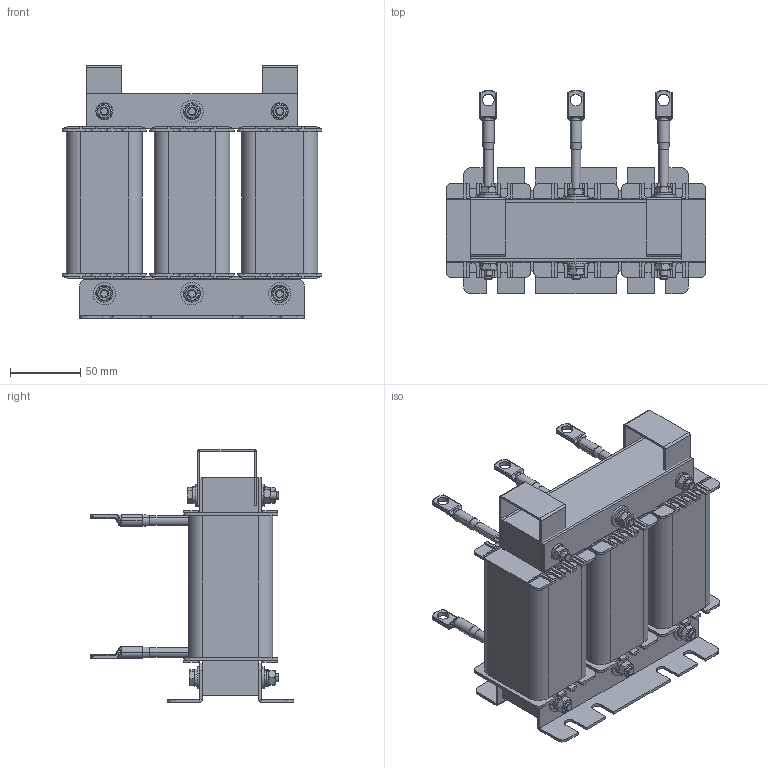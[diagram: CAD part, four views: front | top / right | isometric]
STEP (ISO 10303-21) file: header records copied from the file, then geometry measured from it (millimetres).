
FILE_DESCRIPTION (( 'STEP AP203' ), '1' );
FILE_NAME ('Ñåòåâîé äðîññåëü _ ISF-30_62-4.STEP', '2025-07-11T07:26:13', ( '' ), ( '' ), 'SwSTEP 2.0', 'SolidWorks 2021', '' );
FILE_SCHEMA (( 'CONFIG_CONTROL_DESIGN' ));
Length unit declared in the file: millimetre
Products named in the file (15): Áîëò DIN 933_Œ6å60; Øàéáà ïðóæèííàÿ DIN 127 (A)_Œ6; Ïëàñòèíà ïðèæèìíàÿ_22-45; 忺覷齆趌30; Ñåòåâîé äðîññåëü _ ISF-30_62-4; Êàòóøêà ñ âûâîäàìè_30; 咈櫡_22-45; Ñêîáà òàêåëàæíàÿ_30; Âûâîä êàòóøêè_30; Øàéáà ïëîñêàÿ DIN 125 (A)_Œ6; 侲膰翴籦鴀_22-45; 栫謱毿膻獥30; Ãàéêà DIN 934_Œ6; Èçîëÿòîð êàòóøêè_30; Øàéáà ïëîñêàÿ DIN 9021_Œ6
Assembly tree (63 placements, depth 3):
  Ñåòåâîé äðîññåëü _ ISF-30_62-4
    咈櫡_22-45  x2
    Èçîëÿòîð êàòóøêè_30  x6
    Êàòóøêà ñ âûâîäàìè_30  x3
      忺覷齆趌30
      Âûâîä êàòóøêè_30
      侲膰翴籦鴀_22-45
    Ïëàñòèíà ïðèæèìíàÿ_22-45  x2
    Ñêîáà òàêåëàæíàÿ_30  x2
    栫謱毿膻獥30
    Øàéáà ïëîñêàÿ DIN 9021_Œ6  x12
    Øàéáà ïëîñêàÿ DIN 125 (A)_Œ6  x12
    Øàéáà ïðóæèííàÿ DIN 127 (A)_Œ6  x6
    Ãàéêà DIN 934_Œ6  x6
    Áîëò DIN 933_Œ6å60  x6
Bounding box: 185 x 145 x 180 mm (x, y, z)
Volume: 1385020.1 mm3; surface area: 341540.4 mm2
Topology: 70 solids, 70 shells, 1700 faces, 4098 edges, 2520 vertices
Faces by surface type: plane 872, cylinder 480, cone 198, bspline 84, torus 42, sphere 24
Entity records: 14338 total; most frequent: CARTESIAN_POINT 3039, DIRECTION 1808, ORIENTED_EDGE 1686, EDGE_CURVE 843, AXIS2_PLACEMENT_3D 639, LINE 530, VECTOR 530, VERTEX_POINT 528
